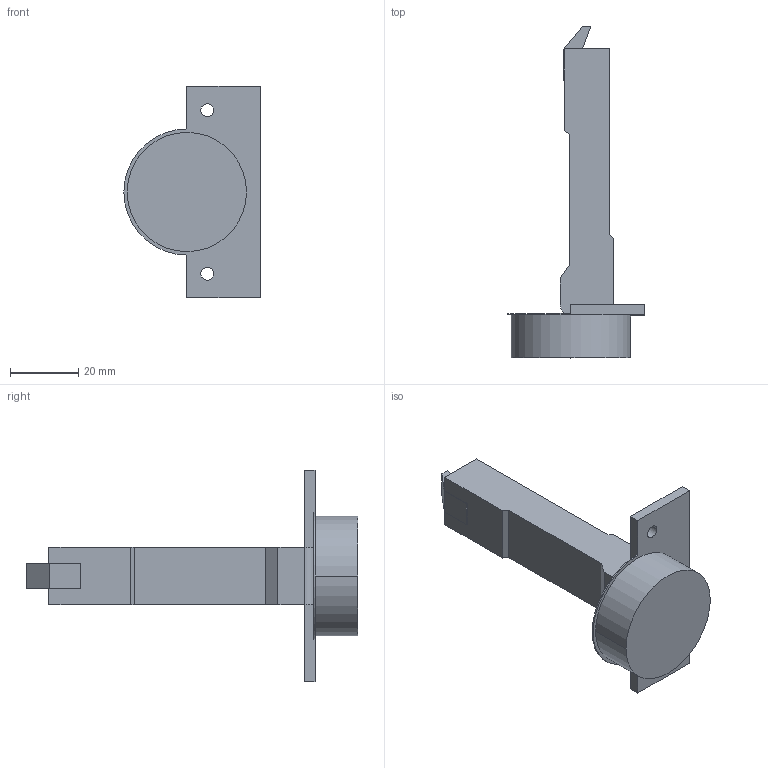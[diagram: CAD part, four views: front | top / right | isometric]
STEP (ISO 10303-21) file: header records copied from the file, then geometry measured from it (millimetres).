
FILE_DESCRIPTION (( 'STEP AP214' ), '1' );
FILE_NAME ('Scharnier T Click-on 100° S_BB.step', '2014-04-09T06:33:19', ( '' ), ( '' ), 'SwSTEP 2.0', 'SolidWorks 2013', '' );
FILE_SCHEMA (( 'AUTOMOTIVE_DESIGN' ));
Length unit declared in the file: millimetre
Products named in the file (1): Scharnier T Click-on 100° S_BB
Bounding box: 40 x 97.4 x 62 mm (x, y, z)
Volume: 32988.1 mm3; surface area: 10438.3 mm2
Topology: 1 solids, 1 shells, 47 faces, 123 edges, 82 vertices
Faces by surface type: plane 32, cylinder 15
Entity records: 1489 total; most frequent: CARTESIAN_POINT 253, DIRECTION 249, ORIENTED_EDGE 246, EDGE_CURVE 123, VECTOR 93, LINE 93, VERTEX_POINT 82, AXIS2_PLACEMENT_3D 78
